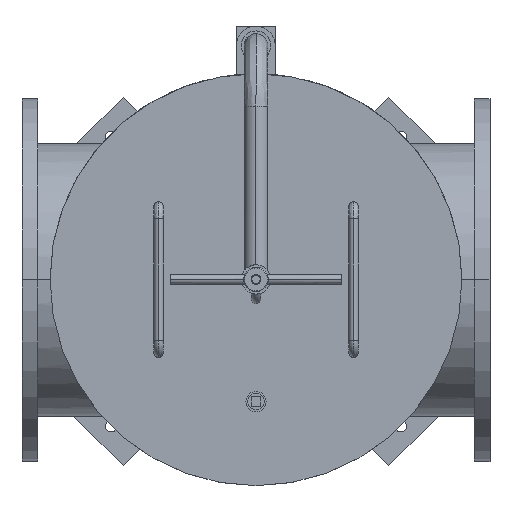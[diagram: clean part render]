
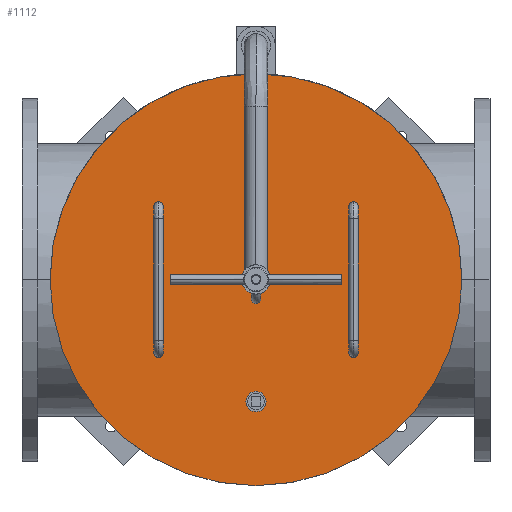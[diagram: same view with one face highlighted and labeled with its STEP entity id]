
A CAD part, top view. The second image highlights one B-rep face of the part: STEP entity #1112.
In plain terms, the highlighted planar face has unit normal (0, 0, 1).
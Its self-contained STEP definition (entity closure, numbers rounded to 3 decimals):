
#1112=ADVANCED_FACE('',(#2634,#2635,#2636,#2637,#2638,#2639,#2640,#2641),#2633,.F.);
#2633=PLANE('',#7331);
#2634=FACE_OUTER_BOUND('',#7332,.T.);
#2635=FACE_BOUND('',#7333,.T.);
#2636=FACE_BOUND('',#7334,.T.);
#2637=FACE_BOUND('',#7335,.T.);
#2638=FACE_BOUND('',#7336,.T.);
#2639=FACE_BOUND('',#7337,.T.);
#2640=FACE_BOUND('',#7338,.T.);
#2641=FACE_BOUND('',#7339,.T.);
#7328=CARTESIAN_POINT('',(855.,-741.791,597.));
#7329=DIRECTION('',(0.,0.,-1.));
#7330=DIRECTION('',(-1.,0.,0.));
#7331=AXIS2_PLACEMENT_3D('',#7328,#7329,#7330);
#7332=EDGE_LOOP('',(#10693,#10694));
#7333=EDGE_LOOP('',(#10695,#10696));
#7334=EDGE_LOOP('',(#10697,#10698));
#7335=EDGE_LOOP('',(#10699,#10700));
#7336=EDGE_LOOP('',(#10701,#10702));
#7337=EDGE_LOOP('',(#10703,#10704));
#7338=EDGE_LOOP('',(#10705,#10706));
#7339=EDGE_LOOP('',(#10707,#10708));
#10693=ORIENTED_EDGE('',*,*,#12606,.F.);
#10694=ORIENTED_EDGE('',*,*,#12607,.F.);
#10695=ORIENTED_EDGE('',*,*,#12608,.F.);
#10696=ORIENTED_EDGE('',*,*,#12609,.F.);
#10697=ORIENTED_EDGE('',*,*,#12610,.F.);
#10698=ORIENTED_EDGE('',*,*,#12611,.F.);
#10699=ORIENTED_EDGE('',*,*,#12612,.F.);
#10700=ORIENTED_EDGE('',*,*,#12613,.F.);
#10701=ORIENTED_EDGE('',*,*,#12614,.F.);
#10702=ORIENTED_EDGE('',*,*,#12615,.F.);
#10703=ORIENTED_EDGE('',*,*,#12616,.F.);
#10704=ORIENTED_EDGE('',*,*,#12617,.F.);
#10705=ORIENTED_EDGE('',*,*,#12618,.F.);
#10706=ORIENTED_EDGE('',*,*,#12619,.F.);
#10707=ORIENTED_EDGE('',*,*,#12620,.F.);
#10708=ORIENTED_EDGE('',*,*,#12621,.F.);
#12606=EDGE_CURVE('',#16579,#16580,#16581,.T.);
#12607=EDGE_CURVE('',#16580,#16579,#16587,.T.);
#12608=EDGE_CURVE('',#16593,#16594,#16595,.T.);
#12609=EDGE_CURVE('',#16594,#16593,#16601,.T.);
#12610=EDGE_CURVE('',#16607,#16608,#16609,.T.);
#12611=EDGE_CURVE('',#16608,#16607,#16615,.T.);
#12612=EDGE_CURVE('',#16621,#16622,#16623,.T.);
#12613=EDGE_CURVE('',#16622,#16621,#16629,.T.);
#12614=EDGE_CURVE('',#16635,#16636,#16637,.T.);
#12615=EDGE_CURVE('',#16636,#16635,#16643,.T.);
#12616=EDGE_CURVE('',#16649,#16650,#16651,.T.);
#12617=EDGE_CURVE('',#16650,#16649,#16657,.T.);
#12618=EDGE_CURVE('',#16663,#16664,#16665,.T.);
#12619=EDGE_CURVE('',#16664,#16663,#16671,.T.);
#12620=EDGE_CURVE('',#16677,#16678,#16679,.T.);
#12621=EDGE_CURVE('',#16678,#16677,#16685,.T.);
#16579=VERTEX_POINT('',#23025);
#16580=VERTEX_POINT('',#23026);
#16581=CIRCLE('',#23030,422.5);
#16587=CIRCLE('',#23034,422.5);
#16593=VERTEX_POINT('',#23035);
#16594=VERTEX_POINT('',#23036);
#16595=CIRCLE('',#23040,3.);
#16601=CIRCLE('',#23044,3.);
#16607=VERTEX_POINT('',#23045);
#16608=VERTEX_POINT('',#23046);
#16609=CIRCLE('',#23050,3.);
#16615=CIRCLE('',#23054,3.);
#16621=VERTEX_POINT('',#23055);
#16622=VERTEX_POINT('',#23056);
#16623=CIRCLE('',#23060,2.);
#16629=CIRCLE('',#23064,2.);
#16635=VERTEX_POINT('',#23065);
#16636=VERTEX_POINT('',#23066);
#16637=CIRCLE('',#23070,2.);
#16643=CIRCLE('',#23074,2.);
#16649=VERTEX_POINT('',#23075);
#16650=VERTEX_POINT('',#23076);
#16651=CIRCLE('',#23080,3.);
#16657=CIRCLE('',#23084,3.);
#16663=VERTEX_POINT('',#23085);
#16664=VERTEX_POINT('',#23086);
#16665=CIRCLE('',#23090,3.);
#16671=CIRCLE('',#23094,3.);
#16677=VERTEX_POINT('',#23095);
#16678=VERTEX_POINT('',#23096);
#16679=CIRCLE('',#23100,20.75);
#16685=CIRCLE('',#23104,20.75);
#23025=CARTESIAN_POINT('',(422.5,0.,597.));
#23026=CARTESIAN_POINT('',(-422.5,0.,597.));
#23027=CARTESIAN_POINT('',(0.,0.,597.));
#23028=DIRECTION('',(0.,0.,-1.));
#23029=DIRECTION('',(-1.,0.,0.));
#23030=AXIS2_PLACEMENT_3D('',#23027,#23028,#23029);
#23031=CARTESIAN_POINT('',(0.,0.,597.));
#23032=DIRECTION('',(0.,0.,-1.));
#23033=DIRECTION('',(-1.,0.,0.));
#23034=AXIS2_PLACEMENT_3D('',#23031,#23032,#23033);
#23035=CARTESIAN_POINT('',(-197.,150.,597.));
#23036=CARTESIAN_POINT('',(-203.,150.,597.));
#23037=CARTESIAN_POINT('',(-200.,150.,597.));
#23038=DIRECTION('',(0.,0.,1.));
#23039=DIRECTION('',(-1.,0.,0.));
#23040=AXIS2_PLACEMENT_3D('',#23037,#23038,#23039);
#23041=CARTESIAN_POINT('',(-200.,150.,597.));
#23042=DIRECTION('',(0.,0.,1.));
#23043=DIRECTION('',(-1.,0.,0.));
#23044=AXIS2_PLACEMENT_3D('',#23041,#23042,#23043);
#23045=CARTESIAN_POINT('',(-197.,-150.,597.));
#23046=CARTESIAN_POINT('',(-203.,-150.,597.));
#23047=CARTESIAN_POINT('',(-200.,-150.,597.));
#23048=DIRECTION('',(0.,0.,1.));
#23049=DIRECTION('',(-1.,0.,0.));
#23050=AXIS2_PLACEMENT_3D('',#23047,#23048,#23049);
#23051=CARTESIAN_POINT('',(-200.,-150.,597.));
#23052=DIRECTION('',(0.,0.,1.));
#23053=DIRECTION('',(-1.,0.,0.));
#23054=AXIS2_PLACEMENT_3D('',#23051,#23052,#23053);
#23055=CARTESIAN_POINT('',(-38.,0.,597.));
#23056=CARTESIAN_POINT('',(-42.,0.,597.));
#23057=CARTESIAN_POINT('',(-40.,0.,597.));
#23058=DIRECTION('',(0.,0.,1.));
#23059=DIRECTION('',(-1.,0.,0.));
#23060=AXIS2_PLACEMENT_3D('',#23057,#23058,#23059);
#23061=CARTESIAN_POINT('',(-40.,0.,597.));
#23062=DIRECTION('',(0.,0.,1.));
#23063=DIRECTION('',(-1.,0.,0.));
#23064=AXIS2_PLACEMENT_3D('',#23061,#23062,#23063);
#23065=CARTESIAN_POINT('',(42.,0.,597.));
#23066=CARTESIAN_POINT('',(38.,0.,597.));
#23067=CARTESIAN_POINT('',(40.,0.,597.));
#23068=DIRECTION('',(0.,0.,1.));
#23069=DIRECTION('',(-1.,0.,0.));
#23070=AXIS2_PLACEMENT_3D('',#23067,#23068,#23069);
#23071=CARTESIAN_POINT('',(40.,0.,597.));
#23072=DIRECTION('',(0.,0.,1.));
#23073=DIRECTION('',(-1.,0.,0.));
#23074=AXIS2_PLACEMENT_3D('',#23071,#23072,#23073);
#23075=CARTESIAN_POINT('',(203.,-150.,597.));
#23076=CARTESIAN_POINT('',(197.,-150.,597.));
#23077=CARTESIAN_POINT('',(200.,-150.,597.));
#23078=DIRECTION('',(0.,0.,1.));
#23079=DIRECTION('',(-1.,0.,0.));
#23080=AXIS2_PLACEMENT_3D('',#23077,#23078,#23079);
#23081=CARTESIAN_POINT('',(200.,-150.,597.));
#23082=DIRECTION('',(0.,0.,1.));
#23083=DIRECTION('',(-1.,0.,0.));
#23084=AXIS2_PLACEMENT_3D('',#23081,#23082,#23083);
#23085=CARTESIAN_POINT('',(203.,150.,597.));
#23086=CARTESIAN_POINT('',(197.,150.,597.));
#23087=CARTESIAN_POINT('',(200.,150.,597.));
#23088=DIRECTION('',(0.,0.,1.));
#23089=DIRECTION('',(-1.,0.,0.));
#23090=AXIS2_PLACEMENT_3D('',#23087,#23088,#23089);
#23091=CARTESIAN_POINT('',(200.,150.,597.));
#23092=DIRECTION('',(0.,0.,1.));
#23093=DIRECTION('',(-1.,0.,0.));
#23094=AXIS2_PLACEMENT_3D('',#23091,#23092,#23093);
#23095=CARTESIAN_POINT('',(-20.75,-250.,597.));
#23096=CARTESIAN_POINT('',(20.75,-250.,597.));
#23097=CARTESIAN_POINT('',(0.,-250.,597.));
#23098=DIRECTION('',(0.,0.,1.));
#23099=DIRECTION('',(1.,0.,0.));
#23100=AXIS2_PLACEMENT_3D('',#23097,#23098,#23099);
#23101=CARTESIAN_POINT('',(0.,-250.,597.));
#23102=DIRECTION('',(0.,0.,1.));
#23103=DIRECTION('',(1.,0.,0.));
#23104=AXIS2_PLACEMENT_3D('',#23101,#23102,#23103);
